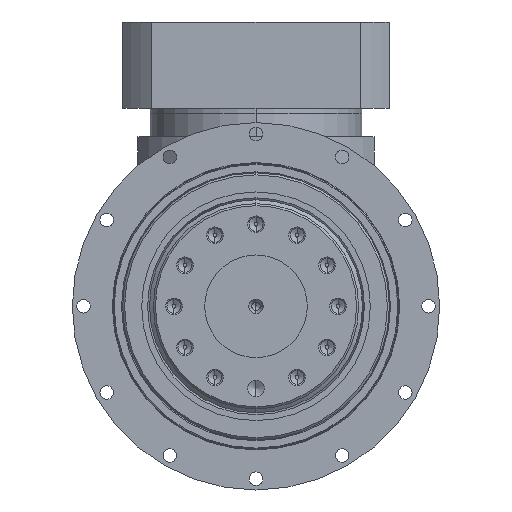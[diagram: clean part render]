
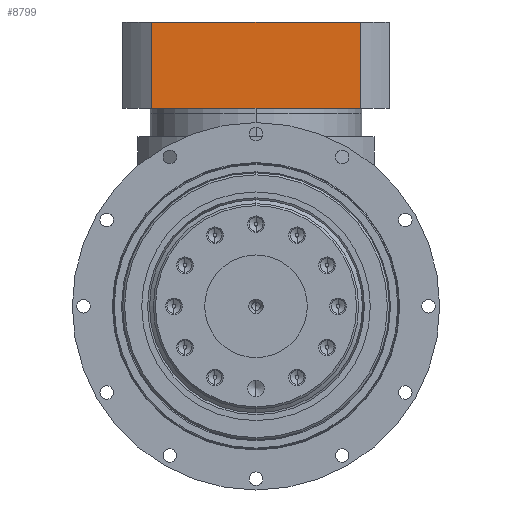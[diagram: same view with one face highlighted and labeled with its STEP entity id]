
A CAD part, left-side view. The second image highlights one B-rep face of the part: STEP entity #8799.
In plain terms, the highlighted planar face has unit normal (-1, 0, 0).
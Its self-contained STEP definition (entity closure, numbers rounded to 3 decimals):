
#434 = LINE ( 'NONE', #4567, #21431 ) ;
#984 = VERTEX_POINT ( 'NONE', #11435 ) ;
#1304 = VERTEX_POINT ( 'NONE', #20078 ) ;
#1895 = CARTESIAN_POINT ( 'NONE',  ( 64., -50.806, 138.5 ) ) ;
#3043 = PLANE ( 'NONE',  #4241 ) ;
#4132 = EDGE_CURVE ( 'NONE', #6378, #1304, #21547, .T. ) ;
#4241 = AXIS2_PLACEMENT_3D ( 'NONE', #7208, #22804, #13123 ) ;
#4567 = CARTESIAN_POINT ( 'NONE',  ( 64., 50.806, 90.5 ) ) ;
#5047 = ORIENTED_EDGE ( 'NONE', *, *, #13333, .T. ) ;
#6378 = VERTEX_POINT ( 'NONE', #1895 ) ;
#6615 = CARTESIAN_POINT ( 'NONE',  ( 64., 0., 138.5 ) ) ;
#6910 = VECTOR ( 'NONE', #10240, 1000. ) ;
#6911 = DIRECTION ( 'NONE',  ( 0., 0., 1. ) ) ;
#7208 = CARTESIAN_POINT ( 'NONE',  ( 64., 65., -139.179 ) ) ;
#7412 = EDGE_CURVE ( 'NONE', #984, #23905, #23917, .T. ) ;
#7791 = VECTOR ( 'NONE', #6911, 1000. ) ;
#8268 = ORIENTED_EDGE ( 'NONE', *, *, #11453, .T. ) ;
#8573 = DIRECTION ( 'NONE',  ( 0., 0., -1. ) ) ;
#8799 = ADVANCED_FACE ( 'NONE', ( #11112 ), #3043, .T. ) ;
#8814 = CARTESIAN_POINT ( 'NONE',  ( 64., -50.806, 90.5 ) ) ;
#10240 = DIRECTION ( 'NONE',  ( 0., 1., 0. ) ) ;
#11112 = FACE_OUTER_BOUND ( 'NONE', #21976, .T. ) ;
#11435 = CARTESIAN_POINT ( 'NONE',  ( 64., -50.806, 96.5 ) ) ;
#11453 = EDGE_CURVE ( 'NONE', #984, #6378, #24841, .T. ) ;
#12349 = VECTOR ( 'NONE', #14526, 1000. ) ;
#13123 = DIRECTION ( 'NONE',  ( 0., -1., 0. ) ) ;
#13333 = EDGE_CURVE ( 'NONE', #1304, #23905, #434, .T. ) ;
#14526 = DIRECTION ( 'NONE',  ( 0., 1., 0. ) ) ;
#17727 = ORIENTED_EDGE ( 'NONE', *, *, #4132, .T. ) ;
#18001 = ORIENTED_EDGE ( 'NONE', *, *, #7412, .F. ) ;
#20078 = CARTESIAN_POINT ( 'NONE',  ( 64., 50.806, 138.5 ) ) ;
#20228 = CARTESIAN_POINT ( 'NONE',  ( 64., 65., 96.5 ) ) ;
#20241 = CARTESIAN_POINT ( 'NONE',  ( 64., 50.806, 96.5 ) ) ;
#21431 = VECTOR ( 'NONE', #8573, 1000. ) ;
#21547 = LINE ( 'NONE', #6615, #6910 ) ;
#21976 = EDGE_LOOP ( 'NONE', ( #5047, #18001, #8268, #17727 ) ) ;
#22804 = DIRECTION ( 'NONE',  ( -1., 0., 0. ) ) ;
#23905 = VERTEX_POINT ( 'NONE', #20241 ) ;
#23917 = LINE ( 'NONE', #20228, #12349 ) ;
#24841 = LINE ( 'NONE', #8814, #7791 ) ;
